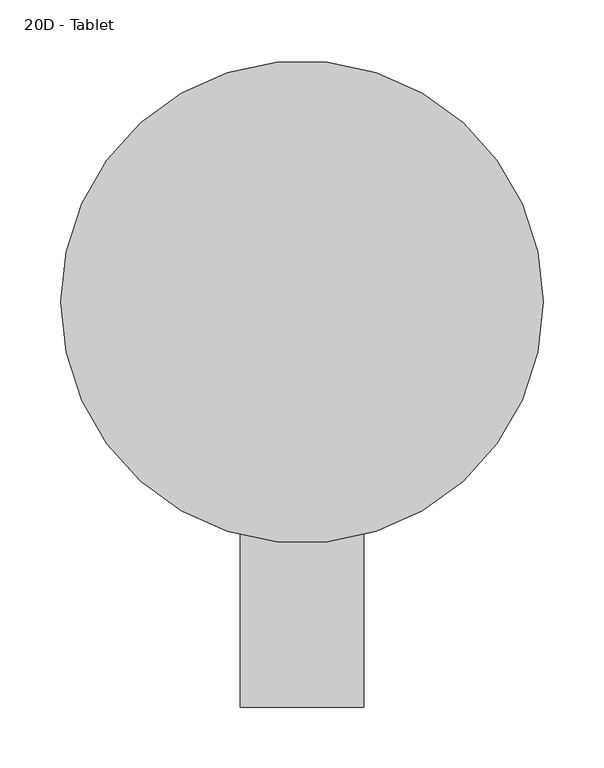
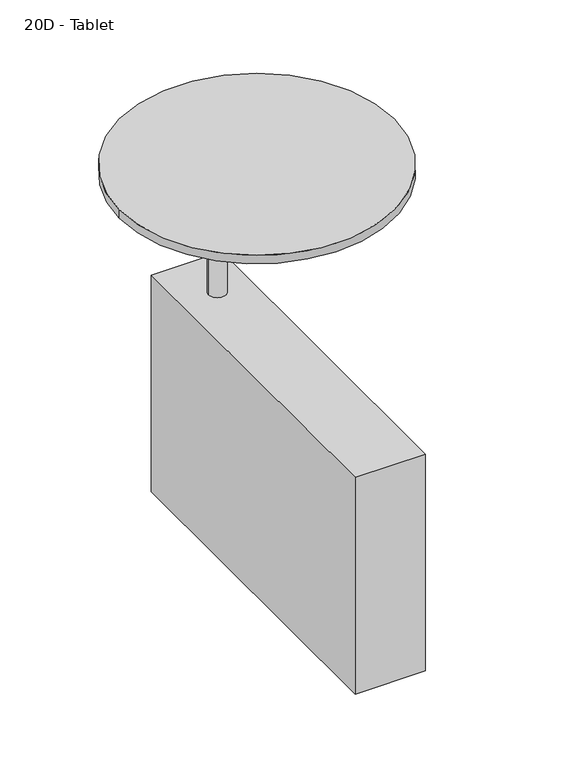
"""IFC4 building model written with IfcOpenShell, lengths in millimetres: furniture geometry, Coalesse_AM_Table_Occasional_Await_Connector : 20D - Tablet."""

from ifc_helpers import new_model, si_unit, point, frame, frame_2d, origin, place, context, project, spatial, polyline, circle_curve, trimmed, segment, composite_curve, outline, extrude, source, transform, mapped, element, save
from ifc_brep_helpers import plane_surface, cylinder_surface, advanced_brep


def furniture_20d_tablet_445ab399(model_context):
    return source(origin(), model_context, "Body", "SolidModel", [
        extrude(outline(composite_curve([segment(trimmed(circle_curve(frame_2d((-663.917922, 15.7143355)), 198.12), [point((-862.037922, 15.7143355))], [point((-465.797922, 15.7143355))], False, "CARTESIAN"), True, "CONTINUOUS"), segment(trimmed(circle_curve(frame_2d((-663.917922, 15.7143355)), 198.12), [point((-465.797922, 15.7143355))], [point((-862.037922, 15.7143355))], False, "CARTESIAN"), True, "CONTINUOUS")], self_intersect=False)), frame((0.0, 0.0, 631.825), z_axis=(0.0, 0.0, 1.0), x_axis=(1.0, 0.0, 0.0)), (0.0, 0.0, 1.0), 12.7),
        advanced_brep(
        [(-625.817922, 114.6403236, 631.825), (-702.017922, 114.6403236, 631.825), (-663.917922, 114.6403236, 631.825), (-625.817922, 114.6403236, 623.8875), (-702.017922, 114.6403236, 623.8875), (-651.217922, 114.6403236, 623.8875), (-676.617922, 114.6403236, 623.8875), (-651.217922, 114.6403236, 390.525), (-676.617922, 114.6403236, 390.525), (-663.917922, 114.6403236, 390.525)],
        [
            (0, 1, circle_curve(frame((-663.917922, 114.6403236, 631.825), z_axis=(0.0, 0.0, 1.0), x_axis=(-1.0, 0.0, 0.0)), 38.1)),
            (1, 2),
            (2, 0),
            (1, 0, circle_curve(frame((-663.917922, 114.6403236, 631.825), z_axis=(0.0, 0.0, 1.0), x_axis=(-1.0, 0.0, 0.0)), 38.1)),
            (3, 4, circle_curve(frame((-663.917922, 114.6403236, 623.8875), z_axis=(0.0, 0.0, 1.0), x_axis=(-1.0, 0.0, 0.0)), 38.1)),
            (4, 1),
            (0, 3),
            (4, 3, circle_curve(frame((-663.917922, 114.6403236, 623.8875), z_axis=(0.0, 0.0, 1.0), x_axis=(-1.0, 0.0, 0.0)), 38.1)),
            (5, 6, circle_curve(frame((-663.917922, 114.6403236, 623.8875), z_axis=(0.0, 0.0, 1.0), x_axis=(-1.0, 0.0, 0.0)), 12.7)),
            (6, 4),
            (3, 5),
            (6, 5, circle_curve(frame((-663.917922, 114.6403236, 623.8875), z_axis=(0.0, 0.0, 1.0), x_axis=(-1.0, 0.0, 0.0)), 12.7)),
            (7, 8, circle_curve(frame((-663.917922, 114.6403236, 390.525), z_axis=(0.0, 0.0, 1.0), x_axis=(-1.0, 0.0, 0.0)), 12.7)),
            (8, 6),
            (5, 7),
            (8, 7, circle_curve(frame((-663.917922, 114.6403236, 390.525), z_axis=(0.0, 0.0, 1.0), x_axis=(-1.0, 0.0, 0.0)), 12.7)),
            (9, 8),
            (7, 9),
        ],
        [
            plane_surface(frame((-663.917922, 114.6403236, 631.825), z_axis=(0.0, 0.0, 1.0), x_axis=(-1.0, 0.0, 0.0))),
            cylinder_surface(frame((-663.917922, 114.6403236, 631.825), z_axis=(0.0, 0.0, -1.0), x_axis=(-1.0, 0.0, 0.0)), 38.1),
            plane_surface(frame((-663.917922, 114.6403236, 623.8875), z_axis=(0.0, 0.0, -1.0), x_axis=(-1.0, 0.0, 0.0))),
            cylinder_surface(frame((-663.917922, 114.6403236, 631.825), z_axis=(0.0, 0.0, -1.0), x_axis=(-1.0, 0.0, 0.0)), 12.7),
            plane_surface(frame((-663.917922, 114.6403236, 390.525), z_axis=(0.0, 0.0, -1.0), x_axis=(-1.0, 0.0, 0.0))),
        ],
        [
            (0, [[1, 2, 3]]),
            (0, [[4, -3, -2]]),
            (1, [[5, 6, -1, 7]]),
            (1, [[8, -7, -4, -6]]),
            (2, [[9, 10, -5, 11]]),
            (2, [[12, -11, -8, -10]]),
            (3, [[13, 14, -9, 15]]),
            (3, [[16, -15, -12, -14]]),
            (4, [[17, -13, 18]]),
            (4, [[-18, -16, -17]]),
        ],
    ),
        extrude(outline(polyline([(-613.117922, 190.8403236), (-613.117922, -317.1596764), (-714.717922, -317.1596764), (-714.717922, 190.8403236), (-613.117922, 190.8403236)])), frame((0.0, 0.0, 57.15), z_axis=(0.0, 0.0, 1.0), x_axis=(1.0, 0.0, 0.0)), (0.0, 0.0, 1.0), 330.2),
    ])


if __name__ == "__main__":
    model = new_model("IFC4")
    model_context = context("Model", 3, world=origin())
    ifc_project = project(units=[si_unit("LENGTHUNIT", "METRE", prefix="MILLI")], contexts=[model_context])
    site = spatial("IfcSite", under=ifc_project)
    building = spatial("IfcBuilding", under=site)
    placement = place(None, origin())
    furniture_20d_tablet_shape = furniture_20d_tablet_445ab399(model_context)
    element("IfcFurniture", 1, ObjectType="Coalesse_AM_Table_Occasional_Await_Connector : 20D - Tablet", at=placement, inside=building, context=model_context, shape_type="MappedRepresentation", body=[
        mapped(furniture_20d_tablet_shape, transform((0.0, 0.0, 0.0), x_axis=(1.0, 0.0, 0.0), y_axis=(0.0, 1.0, 0.0), z_axis=(0.0, 0.0, 1.0))),
    ])
    save(model, "model.ifc")
